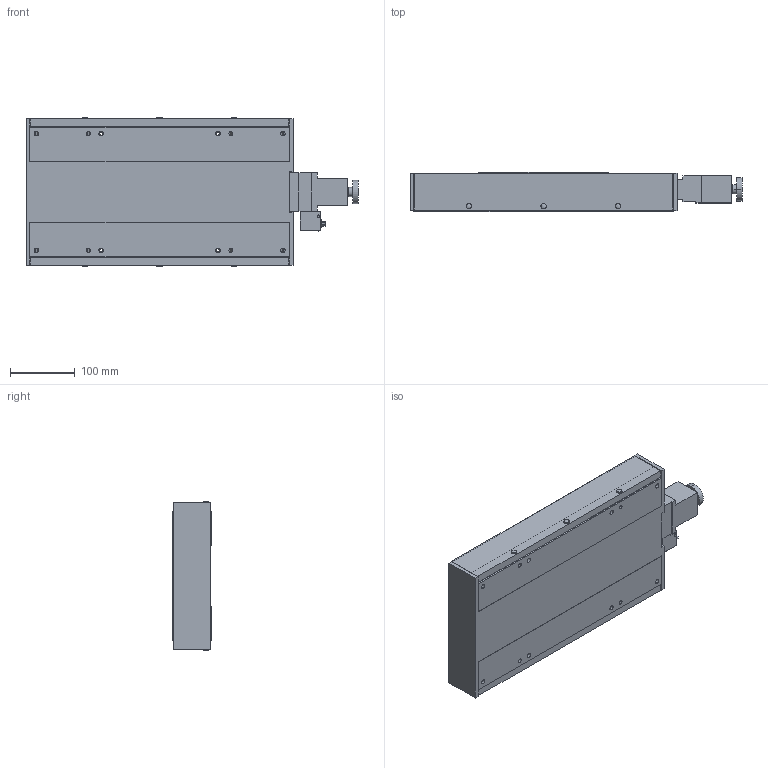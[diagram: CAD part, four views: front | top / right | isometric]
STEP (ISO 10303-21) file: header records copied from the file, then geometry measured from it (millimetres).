
FILE_DESCRIPTION (( 'STEP AP203' ), '1' );
FILE_NAME ('ALS-212-C5PB.STEP', '2008-03-07T08:14:26', ( '' ), ( '' ), 'SwSTEP 2.0', 'SolidWorks 2007', '' );
FILE_SCHEMA (( 'CONFIG_CONTROL_DESIGN' ));
Length unit declared in the file: millimetre
Products named in the file (5): ALS-212-C5PB; ALS-212-C5PB-4_蹬怮椔; ALS-212-C5PB-3_蹬怮椔; ALS-212-C5PB-2_蹬怮椔; ALS-212-C5PB-1_蹬怮椔
Assembly tree (4 placements, depth 2):
  ALS-212-C5PB
    ALS-212-C5PB-1_蹬怮椔
    ALS-212-C5PB-4_蹬怮椔
    ALS-212-C5PB-2_蹬怮椔
    ALS-212-C5PB-3_蹬怮椔
Bounding box: 512 x 60 x 230.8 mm (x, y, z)
Volume: 3003805.4 mm3; surface area: 793464.5 mm2
Topology: 4 solids, 7 shells, 841 faces, 2229 edges, 1476 vertices
Faces by surface type: plane 579, cylinder 235, cone 18, bspline 9
Entity records: 28460 total; most frequent: CARTESIAN_POINT 6410, ORIENTED_EDGE 4458, DIRECTION 4395, EDGE_CURVE 2229, VECTOR 1705, LINE 1705, VERTEX_POINT 1476, AXIS2_PLACEMENT_3D 1345
